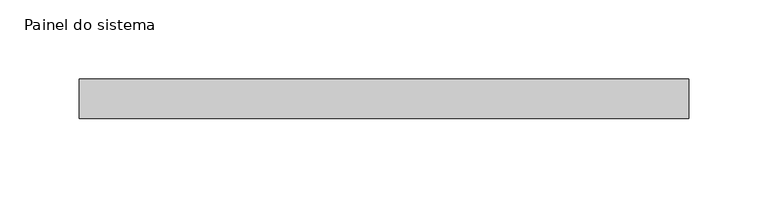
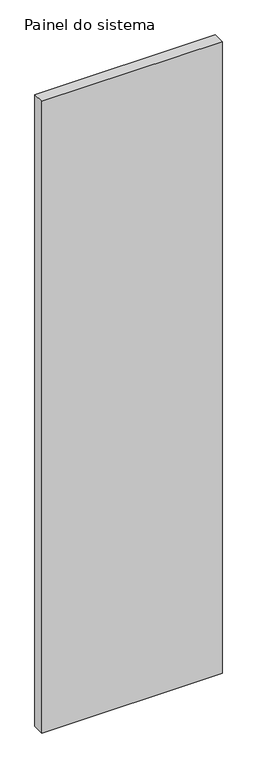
"""IFC4 building model written with IfcOpenShell, lengths in millimetres: plate geometry, Painel do sistema : Envidraçado."""

import ifcopenshell
import ifcopenshell.guid

model = None  # the IFC model being written
_history = None  # IfcOwnerHistory: only IFC2X3 demands one
_inside = {}  # id of a spatial element -> (the spatial element, [elements in it])
_under = {}  # id of a project, library or spatial element -> (it, [spatial elements below it])
_declared = {}  # id of a project -> (the project, [libraries it declares])
_typed = {}  # id of a type object -> (the type object, [elements of that type])
_made_of = {}  # id of a material, layer set ... -> (it, [elements and type objects made of it])


def new_model(schema):
    """Start an empty IFC model of exactly this schema.

    Asked for "IFC4X3", IfcOpenShell would pick the latest addendum, in which some entities
    have other attributes; the version numbers below select the first issue.
    IFC2X3 requires an IfcOwnerHistory on every rooted entity: one is made here for all.
    """
    global model, _history
    if schema == "IFC4X3":
        model = ifcopenshell.file(schema_version=(4, 3, 0, 0))
    else:
        model = ifcopenshell.file(schema=schema)
    _inside.clear()
    _under.clear()
    _declared.clear()
    _typed.clear()
    _made_of.clear()
    _history = None
    if model.schema == "IFC2X3":
        org = make("IfcOrganization", Name="unknown")
        user = make(
            "IfcPersonAndOrganization",
            ThePerson=make("IfcPerson", FamilyName="unknown"),
            TheOrganization=org,
        )
        app = make(
            "IfcApplication",
            ApplicationDeveloper=org,
            Version="unknown",
            ApplicationFullName="unknown",
            ApplicationIdentifier="unknown",
        )
        _history = make(
            "IfcOwnerHistory",
            OwningUser=user,
            OwningApplication=app,
            ChangeAction="ADDED",
            CreationDate=0,
        )
    return model


def make(cls, **values):
    """One entity of the class cls with the attributes given. An attribute that is None is left unset."""
    return model.create_entity(
        cls, **{name: value for name, value in values.items() if value is not None}
    )


def rooted(cls, **values):
    """An entity with a GlobalId (a new one), such as an element, a storey or a relation."""
    return make(cls, GlobalId=ifcopenshell.guid.new(), OwnerHistory=_history, **values)


def si_unit(unit_type, name, prefix=None):
    """IfcSIUnit, for example si_unit("LENGTHUNIT", "METRE", prefix="MILLI")."""
    return make("IfcSIUnit", UnitType=unit_type, Prefix=prefix, Name=name)


def assignment(units):
    """IfcUnitAssignment: the units of a project."""
    return None if units is None else make("IfcUnitAssignment", Units=units)


def point(xyz):
    """IfcCartesianPoint."""
    return None if xyz is None else make("IfcCartesianPoint", Coordinates=xyz)


def direction(xyz):
    """IfcDirection."""
    return None if xyz is None else make("IfcDirection", DirectionRatios=xyz)


def frame(location, z_axis=None, x_axis=None):
    """IfcAxis2Placement3D, a coordinate frame: its origin and axes. An axis left out is left unset."""
    return make(
        "IfcAxis2Placement3D",
        Location=point(location),
        Axis=direction(z_axis),
        RefDirection=direction(x_axis),
    )


def origin():
    """The frame at (0, 0, 0) with its axes left unset."""
    return frame((0.0, 0.0, 0.0))


def origin_with_axes():
    """The frame at (0, 0, 0) with the z axis (0, 0, 1) and the x axis (1, 0, 0) written out."""
    return frame((0.0, 0.0, 0.0), z_axis=(0.0, 0.0, 1.0), x_axis=(1.0, 0.0, 0.0))


def place(relative_to, where):
    """IfcLocalPlacement: puts the frame where relative to a parent placement (None: the world)."""
    return make(
        "IfcLocalPlacement", PlacementRelTo=relative_to, RelativePlacement=where
    )


def context(
    kind, dimensions, precision=None, world=None, true_north=None, identifier=None
):
    """IfcGeometricRepresentationContext, for example the 3D "Model" context."""
    return make(
        "IfcGeometricRepresentationContext",
        ContextIdentifier=identifier,
        ContextType=kind,
        CoordinateSpaceDimension=dimensions,
        Precision=precision,
        WorldCoordinateSystem=world,
        TrueNorth=true_north,
    )


def project(units=None, contexts=None):
    """IfcProject with its units and contexts."""
    return rooted(
        "IfcProject",
        Name="project",
        RepresentationContexts=contexts,
        UnitsInContext=assignment(units),
    )


def spatial(cls, under=None, at=None, **own):
    """A site, building, storey or space (cls), placed at a placement, below another one or the project."""
    s = rooted(cls, ObjectPlacement=at, **own)
    if under is not None:
        _under.setdefault(under.id(), (under, []))[1].append(s)
    return s


def polyline(points):
    """IfcPolyline through the points."""
    return make("IfcPolyline", Points=[point(p) for p in points])


def outline(outer, holes=None, kind="AREA"):
    """IfcArbitraryClosedProfileDef: a profile drawn as a closed curve; with holes, ...WithVoids."""
    if holes is None:
        return make("IfcArbitraryClosedProfileDef", ProfileType=kind, OuterCurve=outer)
    return make(
        "IfcArbitraryProfileDefWithVoids",
        ProfileType=kind,
        OuterCurve=outer,
        InnerCurves=holes,
    )


def extrude(swept, where, along, depth):
    """IfcExtrudedAreaSolid: the profile swept, set in the frame where, extruded along a direction by depth."""
    return make(
        "IfcExtrudedAreaSolid",
        SweptArea=swept,
        Position=where,
        ExtrudedDirection=direction(along),
        Depth=depth,
    )


def shape(context_of_items, identifier, shape_type, items):
    """IfcShapeRepresentation: the items that make up one representation, for example the "Body"."""
    return make(
        "IfcShapeRepresentation",
        ContextOfItems=context_of_items,
        RepresentationIdentifier=identifier,
        RepresentationType=shape_type,
        Items=items,
    )


def source(mapping_origin, context_of_items, identifier, shape_type, items):
    """IfcRepresentationMap: a shape defined once, which mapped items show again and again."""
    return make(
        "IfcRepresentationMap",
        MappingOrigin=mapping_origin,
        MappedRepresentation=shape(context_of_items, identifier, shape_type, items),
    )


def transform(
    local_origin,
    x_axis=None,
    y_axis=None,
    z_axis=None,
    scale=None,
    scale2=None,
    scale3=None,
    uniform=True,
):
    """IfcCartesianTransformationOperator3D, or its non-uniform kind. x_axis, y_axis, z_axis: its Axis1, 2, 3."""
    if uniform:
        return make(
            "IfcCartesianTransformationOperator3D",
            Axis1=direction(x_axis),
            Axis2=direction(y_axis),
            LocalOrigin=point(local_origin),
            Scale=scale,
            Axis3=direction(z_axis),
        )
    return make(
        "IfcCartesianTransformationOperator3DnonUniform",
        Axis1=direction(x_axis),
        Axis2=direction(y_axis),
        LocalOrigin=point(local_origin),
        Scale=scale,
        Axis3=direction(z_axis),
        Scale2=scale2,
        Scale3=scale3,
    )


def mapped(mapping_source, mapping_target):
    """IfcMappedItem: shows the shape of a source again, moved by a transform."""
    return make(
        "IfcMappedItem", MappingSource=mapping_source, MappingTarget=mapping_target
    )


def made_of(thing, what):
    """Note that an element or type object is made of a material, layer set ...; save() writes the relation."""
    if what is not None:
        _made_of.setdefault(what.id(), (what, []))[1].append(thing)
    return thing


def element(
    cls,
    number,
    at=None,
    inside=None,
    cuts=None,
    type_object=None,
    material=None,
    context=None,
    identifier="Body",
    shape_type=None,
    held_by="IfcProductDefinitionShape",
    body=None,
    shapes=None,
    **own,
):
    """One element of the class cls, such as IfcWall. Its Tag is "e" and its number.

    at: its placement. inside: the storey or other place that contains it. cuts: it is an
    opening in that element (IfcRelVoidsElement). A single representation is given by context,
    identifier, shape_type and body (its items); several are given by shapes. held_by: the class
    of the entity that holds the representations. save() writes the other relations.
    """
    e = rooted(cls, Tag="e%d" % number, ObjectPlacement=at, **own)
    if body is not None:
        shapes = [shape(context, identifier, shape_type, body)]
    if shapes is not None:
        e.Representation = make(held_by, Representations=shapes)
    if inside is not None:
        _inside.setdefault(inside.id(), (inside, []))[1].append(e)
    if cuts is not None:
        rooted(
            "IfcRelVoidsElement", RelatingBuildingElement=cuts, RelatedOpeningElement=e
        )
    if type_object is not None:
        _typed.setdefault(type_object.id(), (type_object, []))[1].append(e)
    return made_of(e, material)


def aggregate(whole, parts):
    """IfcRelAggregates: a whole, such as a stair, and the parts it consists of."""
    return rooted("IfcRelAggregates", RelatingObject=whole, RelatedObjects=parts)


def save(model, path):
    """Write the relations noted so far, then the file.

    IfcRelAggregates (storeys below a building ...), IfcRelContainedInSpatialStructure (elements
    in a storey), IfcRelDefinesByType, IfcRelAssociatesMaterial and IfcRelDeclares: one each for
    every whole, place, type object, material and project.
    """
    for whole, parts in _under.values():
        aggregate(whole, parts)
    for where, things in _inside.values():
        rooted(
            "IfcRelContainedInSpatialStructure",
            RelatedElements=things,
            RelatingStructure=where,
        )
    for kind, things in _typed.values():
        rooted("IfcRelDefinesByType", RelatedObjects=things, RelatingType=kind)
    for what, things in _made_of.values():
        rooted("IfcRelAssociatesMaterial", RelatedObjects=things, RelatingMaterial=what)
    for by, libraries in _declared.values():
        rooted("IfcRelDeclares", RelatingContext=by, RelatedDefinitions=libraries)
    model.write(path)


def painel_do_sistema_e964361e(model_context):
    return source(origin(), model_context, "Body", "SweptSolid", [
        extrude(outline(polyline([(192.3718588, -49.5), (-192.3718588, -49.5), (-192.3718588, -24.5), (192.3718588, -24.5), (192.3718588, -49.5)])), origin_with_axes(), (0.0, 0.0, 1.0), 1425.0),
    ])


if __name__ == "__main__":
    model = new_model("IFC4")
    model_context = context("Model", 3, world=origin())
    ifc_project = project(units=[si_unit("LENGTHUNIT", "METRE", prefix="MILLI")], contexts=[model_context])
    site = spatial("IfcSite", under=ifc_project)
    building = spatial("IfcBuilding", under=site)
    placement = place(None, origin())
    painel_do_sistema_shape = painel_do_sistema_e964361e(model_context)
    element("IfcPlate", 1, ObjectType="Painel do sistema : Envidraçado", at=placement, inside=building, context=model_context, shape_type="MappedRepresentation", body=[
        mapped(painel_do_sistema_shape, transform((0.0, 0.0, 0.0), x_axis=(1.0, 0.0, 0.0), y_axis=(0.0, 1.0, 0.0), z_axis=(0.0, 0.0, 1.0))),
    ])
    save(model, "model.ifc")
